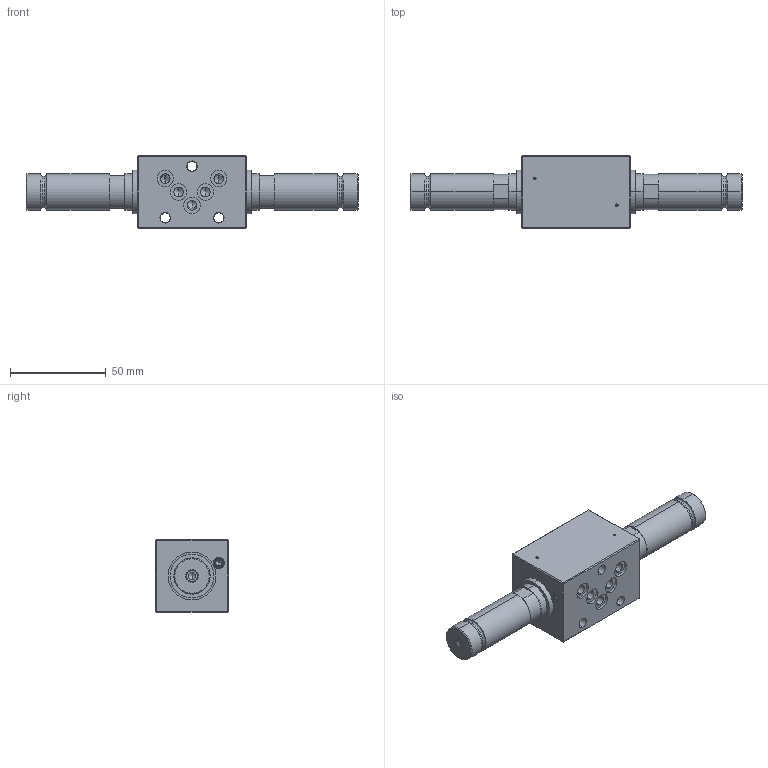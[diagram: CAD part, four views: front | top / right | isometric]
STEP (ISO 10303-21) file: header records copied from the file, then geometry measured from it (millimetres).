
FILE_DESCRIPTION (( 'STEP AP203' ), '1' );
FILE_NAME ('WDEFA04-4_3.step', '2013-07-25T09:08:31', ( 'Wandfluh AG' ), ( 'Wandfluh AG' ), 'SwSTEP 2.0', 'SolidWorks 2012', '' );
FILE_SCHEMA (( 'CONFIG_CONTROL_DESIGN' ));
Length unit declared in the file: millimetre
Products named in the file (1): WDEFA04-4_3
Bounding box: 173.6 x 38 x 38 mm (x, y, z)
Volume: 104304.3 mm3; surface area: 31963.2 mm2
Topology: 9 solids, 9 shells, 1020 faces, 2720 edges, 1748 vertices
Faces by surface type: plane 587, cylinder 278, cone 83, torus 40, bspline 32
Entity records: 33534 total; most frequent: CARTESIAN_POINT 7518, DIRECTION 5579, ORIENTED_EDGE 5392, EDGE_CURVE 2696, AXIS2_PLACEMENT_3D 1981, VERTEX_POINT 1748, LINE 1617, VECTOR 1617
